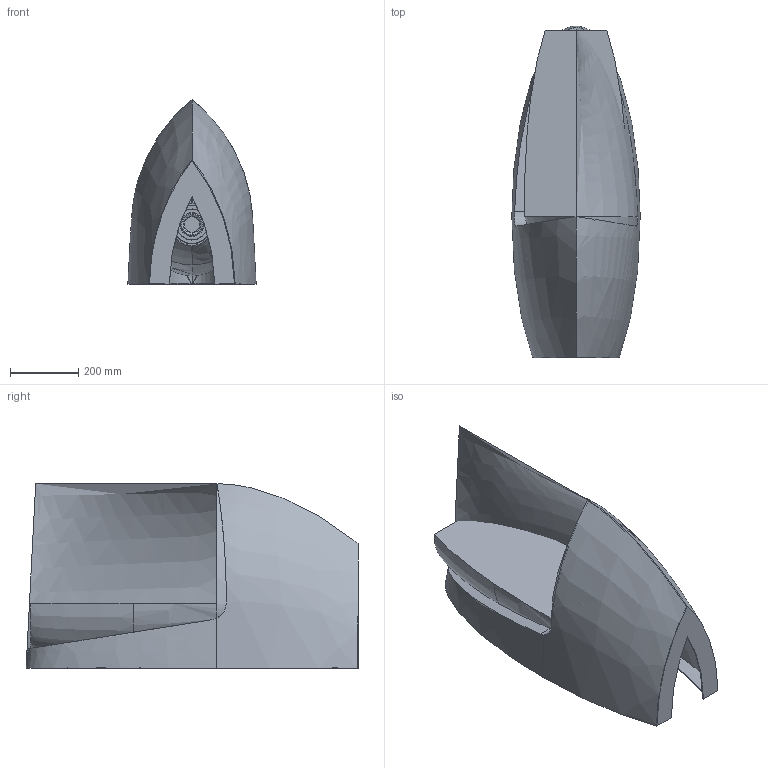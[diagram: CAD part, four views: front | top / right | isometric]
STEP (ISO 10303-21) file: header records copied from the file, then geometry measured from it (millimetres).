
FILE_DESCRIPTION((''),'2;1');
FILE_NAME('D:\ConTechCAD\Kunder\Uridan\Kummer\GX-6\WWWfiler\3D\GX-6.stp','2010-02-07T08:11:03',('Finn Lundsgaard'),(''),'Autodesk Inventor 2009','Autodesk Inventor 2009','');
FILE_SCHEMA(('AUTOMOTIVE_DESIGN { 1 0 10303 214 1 1 1 1 }'));
Length unit declared in the file: millimetre
Products named in the file (5): GX-6; Herre-Dame_2; dæksel_samlet_KH-5_KHC-5; Dæksel_KH-5; Rør_Dæksel_KH-5_KHC-5
Assembly tree (4 placements, depth 3):
  GX-6
    Herre-Dame_2
    dæksel_samlet_KH-5_KHC-5
      Dæksel_KH-5
      Rør_Dæksel_KH-5_KHC-5
Bounding box: 375 x 970 x 540 mm (x, y, z)
Volume: 29257695.9 mm3; surface area: 3312943.7 mm2
Topology: 4 solids, 5 shells, 165 faces, 413 edges, 258 vertices
Faces by surface type: bspline 75, plane 34, cone 23, torus 17, cylinder 16
Full cylindrical faces by diameter (mm): 45 x1, 50 x1, 50.15 x1, 60 x1, 65 x1
Entity records: 18156 total; most frequent: CARTESIAN_POINT 14926, ORIENTED_EDGE 774, EDGE_CURVE 390, DIRECTION 368, VERTEX_POINT 256, B_SPLINE_CURVE_WITH_KNOTS 248, EDGE_LOOP 191, FACE_OUTER_BOUND 165
